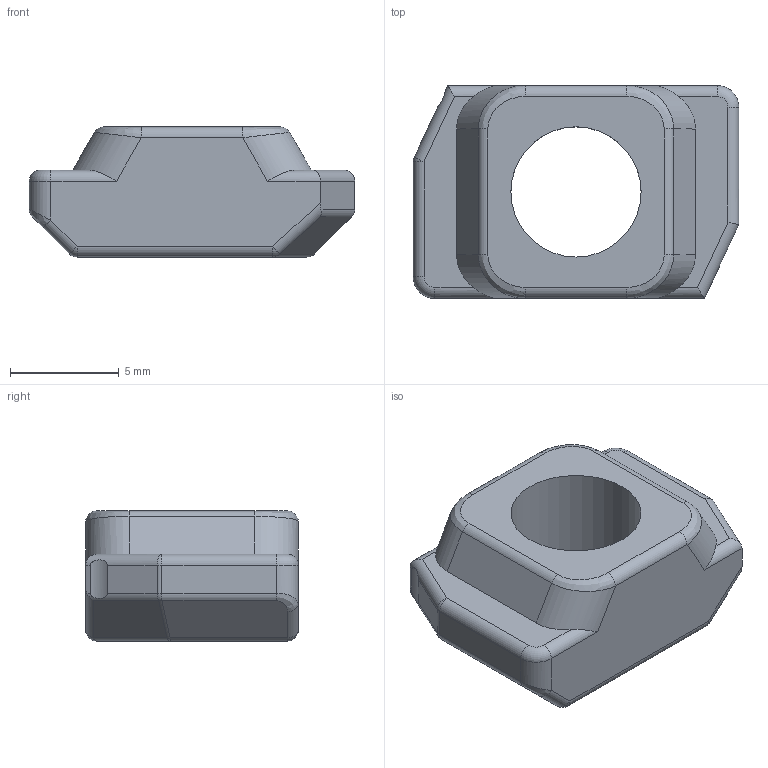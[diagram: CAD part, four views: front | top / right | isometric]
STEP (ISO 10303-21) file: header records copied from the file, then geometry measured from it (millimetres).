
FILE_DESCRIPTION(('STEP AP214'),'1');
FILE_NAME('ND40-M6.stp','2021-06-17T11:15:27',(' '),(' '),'Spatial InterOp 3D',' ',' ');
FILE_SCHEMA(('AUTOMOTIVE_DESIGN { 1 0 10303 214 1 1 1 1 }'));
Length unit declared in the file: millimetre
Products named in the file (1): ND40-M6
Bounding box: 15 x 9.8 x 6 mm (x, y, z)
Volume: 536.1 mm3; surface area: 530.7 mm2
Topology: 1 solids, 1 shells, 72 faces, 170 edges, 92 vertices
Faces by surface type: cylinder 38, plane 17, sphere 9, bspline 6, torus 2
Full cylindrical faces by diameter (mm): 6 x1
Entity records: 2904 total; most frequent: CARTESIAN_POINT 698, DIRECTION 364, ORIENTED_EDGE 322, EDGE_CURVE 161, AXIS2_PLACEMENT_3D 142, VERTEX_POINT 92, LINE 80, VECTOR 80
